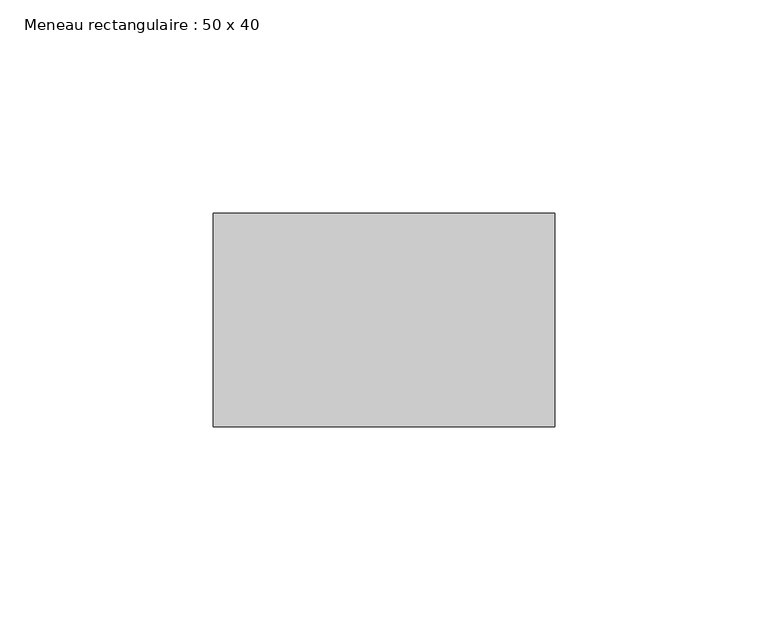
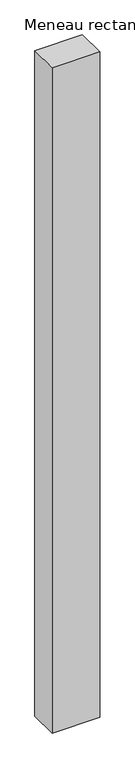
"""IFC4 building model written with IfcOpenShell, lengths in millimetres: member geometry, Meneau rectangulaire : 50 x 40."""

from ifc_helpers import new_model, si_unit, frame, origin, place, context, project, spatial, polyline, outline, extrude, source, transform, mapped, element, save


def meneau_rectangulaire_50_x_40_93d4c31c(model_context):
    return source(origin(), model_context, "Body", "SweptSolid", [
        extrude(outline(polyline([(40.0, 0.0), (40.0, -50.0), (-40.0, -50.0), (-40.0, 0.0), (40.0, 0.0)])), frame((0.0, 0.0, -1183.0347694), z_axis=(0.0, 0.0, 1.0), x_axis=(1.0, 0.0, 0.0)), (0.0, 0.0, 1.0), 1183.0347694),
    ])


if __name__ == "__main__":
    model = new_model("IFC4")
    model_context = context("Model", 3, world=origin())
    ifc_project = project(units=[si_unit("LENGTHUNIT", "METRE", prefix="MILLI")], contexts=[model_context])
    site = spatial("IfcSite", under=ifc_project)
    building = spatial("IfcBuilding", under=site)
    placement = place(None, origin())
    meneau_rectangulaire_50_x_40_shape = meneau_rectangulaire_50_x_40_93d4c31c(model_context)
    element("IfcMember", 1, ObjectType="Meneau rectangulaire : 50 x 40", at=placement, inside=building, context=model_context, shape_type="MappedRepresentation", body=[
        mapped(meneau_rectangulaire_50_x_40_shape, transform((0.0, 0.0, 0.0), x_axis=(1.0, 0.0, 0.0), y_axis=(0.0, 1.0, 0.0), z_axis=(0.0, 0.0, 1.0))),
    ])
    save(model, "model.ifc")
